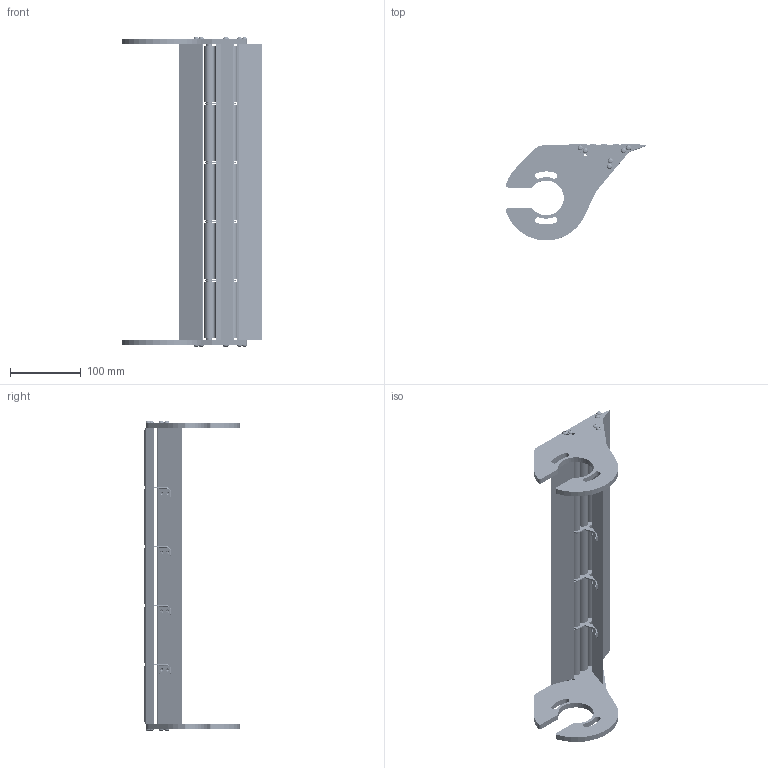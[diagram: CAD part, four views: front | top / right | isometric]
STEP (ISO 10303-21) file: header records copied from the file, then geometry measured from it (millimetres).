
FILE_DESCRIPTION (( 'STEP AP214' ), '1' );
FILE_NAME ('F2 1500 TGRI 2R.STEP', '2024-02-26T14:53:37', ( '' ), ( '' ), 'SwSTEP 2.0', 'SolidWorks 2022', '' );
FILE_SCHEMA (( 'AUTOMOTIVE_DESIGN' ));
Length unit declared in the file: millimetre
Products named in the file (15): SA TGRI; PT-F2 - F2-1500 percé; SA TGRI + ENTRETOISE; ROULEMENT TGRI CAB-F2-R-HEF; TBHC 4X16; PSTI F2 2R; Insert M4 TB; PSTI F2 2R Symétrie; ENTRETOISE TGRI CAB-F2-R-HEF; PT-F2 - F2-1500; F2 1500 TGRI 2R; AXE TGRI F2 1500; Galet + roulement F2 1500; ENTRETOISE SA TGRI; GR F2 1500
Assembly tree (60 placements, depth 3):
  F2 1500 TGRI 2R
    PSTI F2 2R Symétrie
    PSTI F2 2R
    PT-F2 - F2-1500  x2
    PT-F2 - F2-1500 percé
    AXE TGRI F2 1500  x3
    ENTRETOISE TGRI CAB-F2-R-HEF  x6
    Galet + roulement F2 1500  x15
      GR F2 1500
      ROULEMENT TGRI CAB-F2-R-HEF
    SA TGRI + ENTRETOISE  x4
      SA TGRI
      ENTRETOISE SA TGRI
    TBHC 4X16  x12
    Insert M4 TB  x8
Bounding box: 198.67 x 136.6 x 438.78 mm (x, y, z)
Volume: 715243.1 mm3; surface area: 319293.2 mm2
Topology: 95 solids, 95 shells, 3637 faces, 7967 edges, 4634 vertices
Faces by surface type: cone 1560, cylinder 1014, plane 555, torus 436, sphere 52, bspline 20
Entity records: 18740 total; most frequent: CARTESIAN_POINT 3432, DIRECTION 3319, ORIENTED_EDGE 2724, EDGE_CURVE 1362, AXIS2_PLACEMENT_3D 1349, VERTEX_POINT 823, CIRCLE 703, EDGE_LOOP 651
